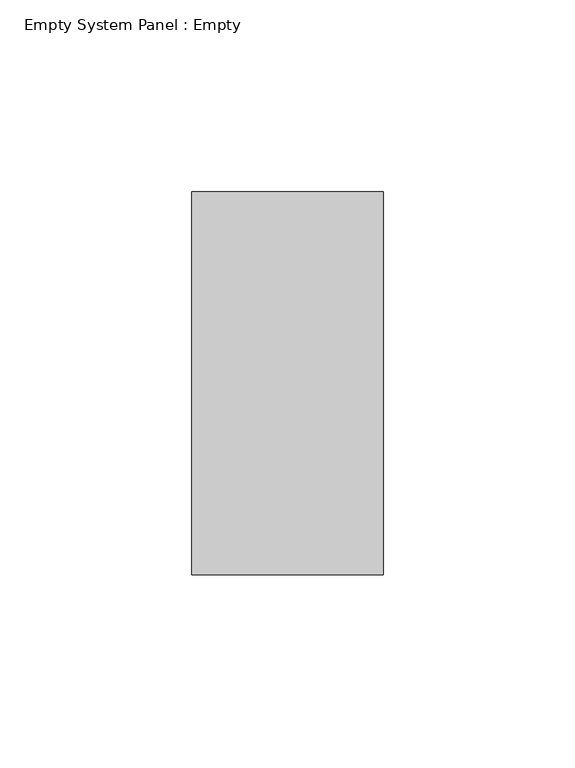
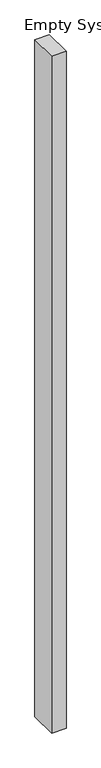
"""IFC4 building model written with IfcOpenShell, lengths in millimetres: plate geometry, Empty System Panel : Empty."""

from ifc_helpers import new_model, si_unit, origin, origin_with_axes, place, context, project, spatial, polyline, outline, extrude, source, transform, mapped, element, save


def empty_system_panel_empty_7c19e3ee(model_context):
    return source(origin(), model_context, "Body", "SweptSolid", [
        extrude(outline(polyline([(24.9999998, -150.0), (-24.9999998, -150.0), (-24.9999998, -50.0), (24.9999998, -50.0), (24.9999998, -150.0)])), origin_with_axes(), (0.0, 0.0, 1.0), 2475.0),
    ])


if __name__ == "__main__":
    model = new_model("IFC4")
    model_context = context("Model", 3, world=origin())
    ifc_project = project(units=[si_unit("LENGTHUNIT", "METRE", prefix="MILLI")], contexts=[model_context])
    site = spatial("IfcSite", under=ifc_project)
    building = spatial("IfcBuilding", under=site)
    placement = place(None, origin())
    empty_system_panel_empty_shape = empty_system_panel_empty_7c19e3ee(model_context)
    element("IfcPlate", 1, ObjectType="Empty System Panel : Empty", at=placement, inside=building, context=model_context, shape_type="MappedRepresentation", body=[
        mapped(empty_system_panel_empty_shape, transform((0.0, 0.0, 0.0), x_axis=(1.0, 0.0, 0.0), y_axis=(0.0, 1.0, 0.0), z_axis=(0.0, 0.0, 1.0))),
    ])
    save(model, "model.ifc")
